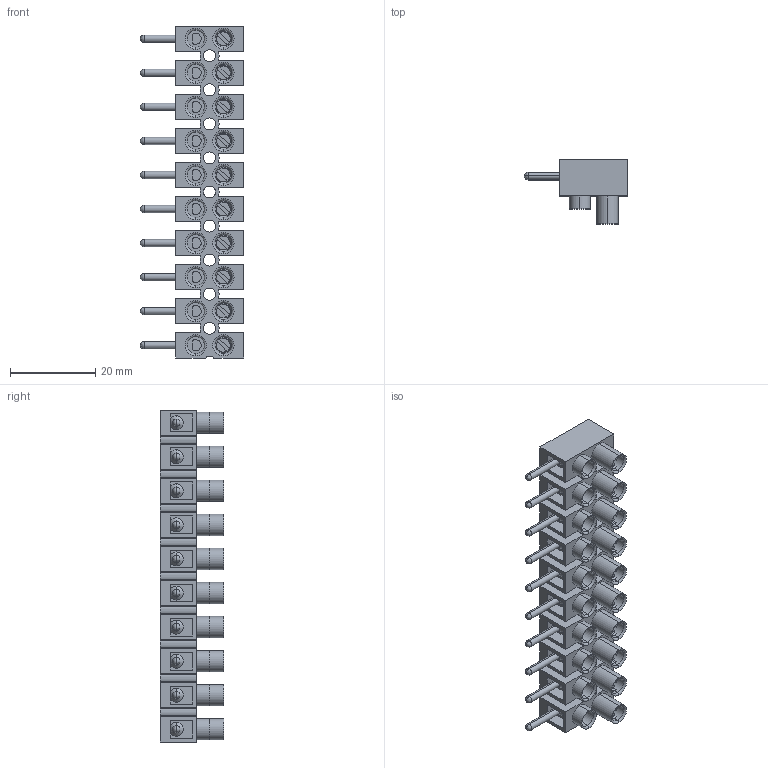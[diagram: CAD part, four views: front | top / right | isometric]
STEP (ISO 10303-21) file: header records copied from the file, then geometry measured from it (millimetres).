
FILE_DESCRIPTION (( 'STEP AP214' ), '1' );
FILE_NAME ('302-SV-DS-10.STEP', '2007-10-19T02:07:30', ( ' ' ), ( '' ), 'SwSTEP 2.0', 'SolidWorks 2007', '' );
FILE_SCHEMA (( 'AUTOMOTIVE_DESIGN' ));
Length unit declared in the file: millimetre
Products named in the file (1): 302-SV-DS-10
Bounding box: 24.25 x 15 x 78 mm (x, y, z)
Volume: 7444.2 mm3; surface area: 11137.4 mm2
Topology: 1 solids, 1 shells, 1463 faces, 4050 edges, 2589 vertices
Faces by surface type: plane 889, cylinder 362, cone 112, bspline 100
Entity records: 63950 total; most frequent: CARTESIAN_POINT 10439, ORIENTED_EDGE 8020, DIRECTION 7672, EDGE_CURVE 4010, VECTOR 2652, LINE 2652, VERTEX_POINT 2589, AXIS2_PLACEMENT_3D 2510
